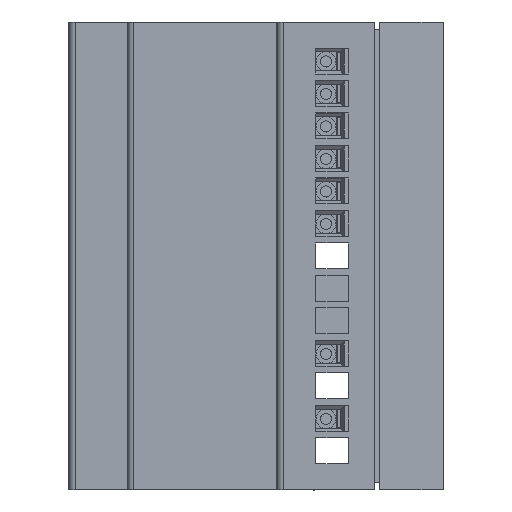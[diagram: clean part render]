
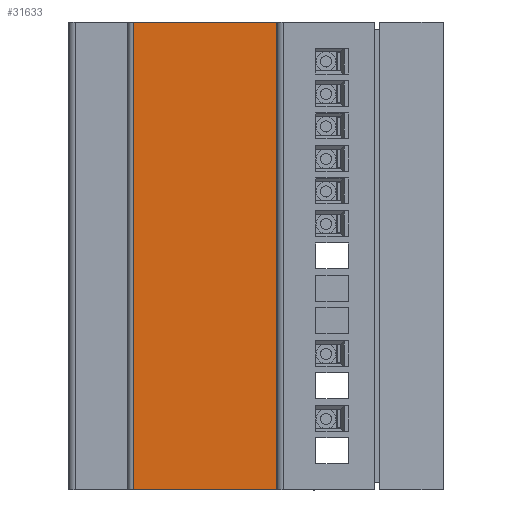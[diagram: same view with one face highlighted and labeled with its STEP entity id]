
A CAD part, left-side view. The second image highlights one B-rep face of the part: STEP entity #31633.
In plain terms, the highlighted planar face has unit normal (-1, 0.026, 0).
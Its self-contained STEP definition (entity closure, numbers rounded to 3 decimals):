
#216 = ORIENTED_EDGE ( 'NONE', *, *, #18562, .T. ) ;
#2098 = EDGE_CURVE ( 'NONE', #20686, #40710, #28146, .T. ) ;
#2504 = VERTEX_POINT ( 'NONE', #5539 ) ;
#2644 = VECTOR ( 'NONE', #19127, 1000. ) ;
#3893 = LINE ( 'NONE', #25406, #11032 ) ;
#4018 = EDGE_LOOP ( 'NONE', ( #216, #18831, #9128, #11686 ) ) ;
#4769 = EDGE_CURVE ( 'NONE', #43305, #2504, #16066, .T. ) ;
#5539 = CARTESIAN_POINT ( 'NONE',  ( -34.25, 15., -36. ) ) ;
#6459 = VECTOR ( 'NONE', #7035, 1000. ) ;
#7035 = DIRECTION ( 'NONE',  ( -0.026, -1., 0. ) ) ;
#9128 = ORIENTED_EDGE ( 'NONE', *, *, #17604, .F. ) ;
#11032 = VECTOR ( 'NONE', #20909, 1000. ) ;
#11560 = CARTESIAN_POINT ( 'NONE',  ( -33.673, 37.026, -36. ) ) ;
#11686 = ORIENTED_EDGE ( 'NONE', *, *, #2098, .F. ) ;
#14027 = DIRECTION ( 'NONE',  ( 0., 0., -1. ) ) ;
#16066 = LINE ( 'NONE', #11560, #6459 ) ;
#16833 = DIRECTION ( 'NONE',  ( 0.026, 1., 0. ) ) ;
#17518 = CARTESIAN_POINT ( 'NONE',  ( -34.25, 15., 36. ) ) ;
#17604 = EDGE_CURVE ( 'NONE', #40710, #2504, #23080, .T. ) ;
#18538 = CARTESIAN_POINT ( 'NONE',  ( -34.25, 15., 36. ) ) ;
#18562 = EDGE_CURVE ( 'NONE', #20686, #43305, #3893, .T. ) ;
#18831 = ORIENTED_EDGE ( 'NONE', *, *, #4769, .T. ) ;
#19127 = DIRECTION ( 'NONE',  ( -0.026, -1., 0. ) ) ;
#20686 = VERTEX_POINT ( 'NONE', #20703 ) ;
#20703 = CARTESIAN_POINT ( 'NONE',  ( -33.673, 37.026, 36. ) ) ;
#20909 = DIRECTION ( 'NONE',  ( 0., 0., -1. ) ) ;
#21351 = DIRECTION ( 'NONE',  ( 1., -0.026, 0. ) ) ;
#23080 = LINE ( 'NONE', #18538, #40118 ) ;
#23148 = CARTESIAN_POINT ( 'NONE',  ( -33.673, 37.026, -36. ) ) ;
#23660 = CARTESIAN_POINT ( 'NONE',  ( -33.673, 37.026, 36. ) ) ;
#25406 = CARTESIAN_POINT ( 'NONE',  ( -33.673, 37.026, 36. ) ) ;
#25858 = CARTESIAN_POINT ( 'NONE',  ( -33.673, 37.026, 36. ) ) ;
#28146 = LINE ( 'NONE', #23660, #2644 ) ;
#31633 = ADVANCED_FACE ( 'NONE', ( #37424 ), #43940, .F. ) ;
#37424 = FACE_OUTER_BOUND ( 'NONE', #4018, .T. ) ;
#40118 = VECTOR ( 'NONE', #14027, 1000. ) ;
#40710 = VERTEX_POINT ( 'NONE', #17518 ) ;
#41973 = AXIS2_PLACEMENT_3D ( 'NONE', #25858, #21351, #16833 ) ;
#43305 = VERTEX_POINT ( 'NONE', #23148 ) ;
#43940 = PLANE ( 'NONE',  #41973 ) ;
